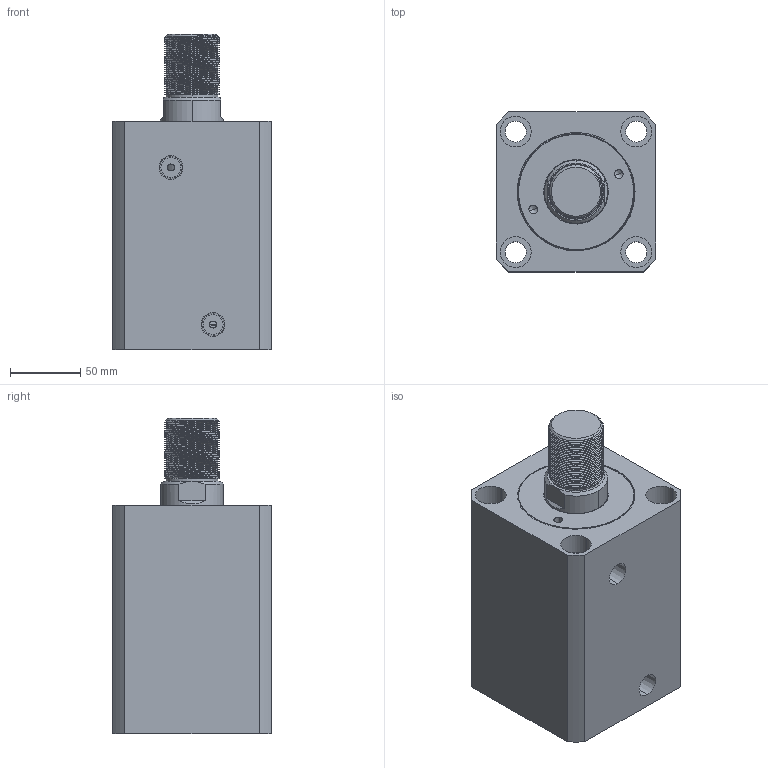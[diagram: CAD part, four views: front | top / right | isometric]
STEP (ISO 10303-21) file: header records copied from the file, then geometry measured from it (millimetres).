
FILE_DESCRIPTION (( 'STEP AP214' ), '1' );
FILE_NAME ('chtb-sd80x85n_asm.STEP', '2018-05-26T08:57:26', ( 'Windows' ), ( 'Microsoft' ), 'SwSTEP 2.0', 'SolidWorks 2015', '' );
FILE_SCHEMA (( 'AUTOMOTIVE_DESIGN' ));
Length unit declared in the file: millimetre
Products named in the file (4): CHTB-SD80QG; CHTB-SD80X85NHSG; CHTB-SD80X85NBT; chtb-sd80x85n_asm
Assembly tree (3 placements, depth 2):
  chtb-sd80x85n_asm
    CHTB-SD80X85NBT
    CHTB-SD80X85NHSG
    CHTB-SD80QG
Bounding box: 114 x 114 x 225 mm (x, y, z)
Volume: 1716645.3 mm3; surface area: 242752.2 mm2
Topology: 3 solids, 3 shells, 253 faces, 689 edges, 462 vertices
Faces by surface type: cylinder 159, plane 40, cone 20, torus 18, bspline 16
Entity records: 20271 total; most frequent: CARTESIAN_POINT 14293, ORIENTED_EDGE 1370, DIRECTION 1078, EDGE_CURVE 685, VERTEX_POINT 462, AXIS2_PLACEMENT_3D 439, EDGE_LOOP 291, FACE_OUTER_BOUND 253
